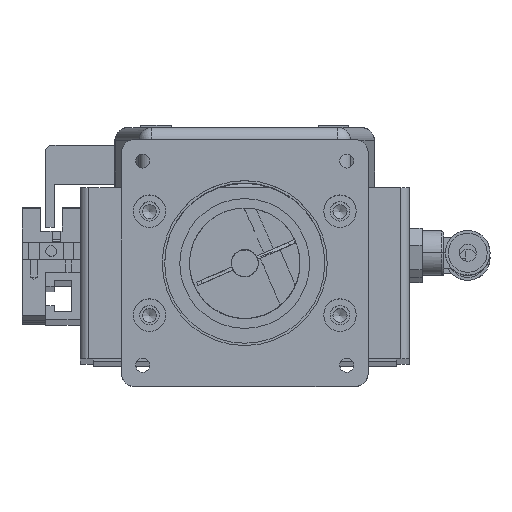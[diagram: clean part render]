
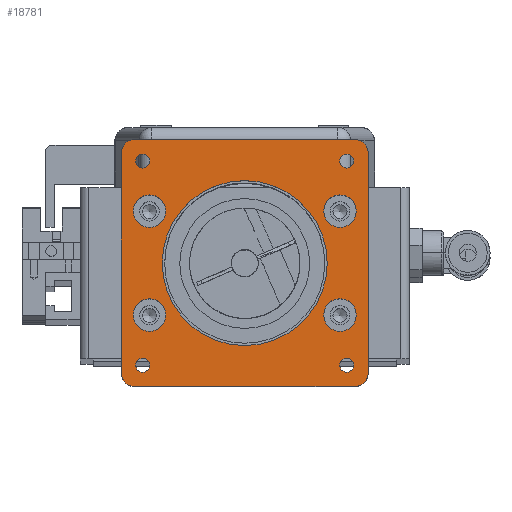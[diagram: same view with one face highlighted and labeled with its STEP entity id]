
A CAD part, top view. The second image highlights one B-rep face of the part: STEP entity #18781.
In plain terms, the highlighted planar face has unit normal (0, 0, 1).
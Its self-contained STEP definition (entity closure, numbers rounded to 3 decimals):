
#17566=CARTESIAN_POINT('',(-25.5,-28.5,12.));
#17567=VERTEX_POINT('',#17566);
#17568=CARTESIAN_POINT('',(-28.5,-25.5,12.));
#17569=VERTEX_POINT('',#17568);
#17570=CARTESIAN_POINT('',(-25.5,-25.5,12.));
#17571=DIRECTION('',(0.0,0.0,-1.));
#17572=DIRECTION('',(-0.707,-0.707,0.0));
#17573=AXIS2_PLACEMENT_3D('',#17570,#17571,#17572);
#17574=CIRCLE('',#17573,3.);
#17575=EDGE_CURVE('',#17567,#17569,#17574,.T.);
#17617=CARTESIAN_POINT('',(25.5,-28.5,12.));
#17618=VERTEX_POINT('',#17617);
#17625=CARTESIAN_POINT('',(25.5,-28.5,12.));
#17626=DIRECTION('',(-1.0,0.0,0.0));
#17627=VECTOR('',#17626,51.);
#17628=LINE('',#17625,#17627);
#17629=EDGE_CURVE('',#17618,#17567,#17628,.T.);
#17702=CARTESIAN_POINT('',(28.5,-25.5,12.));
#17703=VERTEX_POINT('',#17702);
#17704=CARTESIAN_POINT('',(25.5,-25.5,12.));
#17705=DIRECTION('',(0.0,0.0,-1.));
#17706=DIRECTION('',(0.707,-0.707,0.0));
#17707=AXIS2_PLACEMENT_3D('',#17704,#17705,#17706);
#17708=CIRCLE('',#17707,3.);
#17709=EDGE_CURVE('',#17703,#17618,#17708,.T.);
#17745=CARTESIAN_POINT('',(28.5,25.5,12.));
#17746=VERTEX_POINT('',#17745);
#17753=CARTESIAN_POINT('',(28.5,25.5,12.));
#17754=DIRECTION('',(0.0,-1.0,0.0));
#17755=VECTOR('',#17754,51.0);
#17756=LINE('',#17753,#17755);
#17757=EDGE_CURVE('',#17746,#17703,#17756,.T.);
#17767=CARTESIAN_POINT('',(-28.5,25.5,12.));
#17768=VERTEX_POINT('',#17767);
#17769=CARTESIAN_POINT('',(-25.5,28.5,12.));
#17770=VERTEX_POINT('',#17769);
#17771=CARTESIAN_POINT('',(-25.5,25.5,12.));
#17772=DIRECTION('',(0.0,0.0,-1.));
#17773=DIRECTION('',(-0.707,0.707,0.0));
#17774=AXIS2_PLACEMENT_3D('',#17771,#17772,#17773);
#17775=CIRCLE('',#17774,3.);
#17776=EDGE_CURVE('',#17768,#17770,#17775,.T.);
#17802=CARTESIAN_POINT('',(25.5,28.5,12.));
#17803=VERTEX_POINT('',#17802);
#17804=CARTESIAN_POINT('',(-25.5,28.5,12.));
#17805=DIRECTION('',(1.0,0.0,0.0));
#17806=VECTOR('',#17805,51.);
#17807=LINE('',#17804,#17806);
#17808=EDGE_CURVE('',#17770,#17803,#17807,.T.);
#17829=CARTESIAN_POINT('',(25.5,25.5,12.));
#17830=DIRECTION('',(0.0,0.0,-1.0));
#17831=DIRECTION('',(0.707,0.707,0.0));
#17832=AXIS2_PLACEMENT_3D('',#17829,#17830,#17831);
#17833=CIRCLE('',#17832,3.);
#17834=EDGE_CURVE('',#17803,#17746,#17833,.T.);
#18111=CARTESIAN_POINT('',(25.196,-23.575,12.));
#18112=VERTEX_POINT('',#18111);
#18113=CARTESIAN_POINT('',(23.575,-23.575,12.));
#18114=DIRECTION('',(0.0,0.0,-1.0));
#18115=DIRECTION('',(1.0,0.0,0.0));
#18116=AXIS2_PLACEMENT_3D('',#18113,#18114,#18115);
#18117=CIRCLE('',#18116,1.621);
#18118=EDGE_CURVE('',#18112,#18112,#18117,.T.);
#18152=CARTESIAN_POINT('',(-21.954,23.575,12.));
#18153=VERTEX_POINT('',#18152);
#18154=CARTESIAN_POINT('',(-23.575,23.575,12.));
#18155=DIRECTION('',(0.0,0.0,-1.0));
#18156=DIRECTION('',(1.0,0.0,0.0));
#18157=AXIS2_PLACEMENT_3D('',#18154,#18155,#18156);
#18158=CIRCLE('',#18157,1.621);
#18159=EDGE_CURVE('',#18153,#18153,#18158,.T.);
#18193=CARTESIAN_POINT('',(25.196,23.575,12.));
#18194=VERTEX_POINT('',#18193);
#18195=CARTESIAN_POINT('',(23.575,23.575,12.));
#18196=DIRECTION('',(0.0,0.0,-1.0));
#18197=DIRECTION('',(1.0,0.0,0.0));
#18198=AXIS2_PLACEMENT_3D('',#18195,#18196,#18197);
#18199=CIRCLE('',#18198,1.621);
#18200=EDGE_CURVE('',#18194,#18194,#18199,.T.);
#18234=CARTESIAN_POINT('',(-21.954,-23.575,12.));
#18235=VERTEX_POINT('',#18234);
#18236=CARTESIAN_POINT('',(-23.575,-23.575,12.));
#18237=DIRECTION('',(0.0,0.0,-1.0));
#18238=DIRECTION('',(1.0,0.0,0.0));
#18239=AXIS2_PLACEMENT_3D('',#18236,#18237,#18238);
#18240=CIRCLE('',#18239,1.621);
#18241=EDGE_CURVE('',#18235,#18235,#18240,.T.);
#18300=CARTESIAN_POINT('',(25.75,-12.,12.));
#18301=VERTEX_POINT('',#18300);
#18302=CARTESIAN_POINT('',(22.0,-12.,12.));
#18303=DIRECTION('',(0.0,0.0,-1.0));
#18304=DIRECTION('',(1.0,0.0,0.0));
#18305=AXIS2_PLACEMENT_3D('',#18302,#18303,#18304);
#18306=CIRCLE('',#18305,3.75);
#18307=EDGE_CURVE('',#18301,#18301,#18306,.T.);
#18410=CARTESIAN_POINT('',(-18.25,12.,12.));
#18411=VERTEX_POINT('',#18410);
#18412=CARTESIAN_POINT('',(-22.0,12.,12.));
#18413=DIRECTION('',(0.0,0.0,-1.0));
#18414=DIRECTION('',(1.0,0.0,0.0));
#18415=AXIS2_PLACEMENT_3D('',#18412,#18413,#18414);
#18416=CIRCLE('',#18415,3.75);
#18417=EDGE_CURVE('',#18411,#18411,#18416,.T.);
#18520=CARTESIAN_POINT('',(25.75,12.,12.));
#18521=VERTEX_POINT('',#18520);
#18522=CARTESIAN_POINT('',(22.0,12.,12.));
#18523=DIRECTION('',(0.0,0.0,-1.0));
#18524=DIRECTION('',(1.0,0.0,0.0));
#18525=AXIS2_PLACEMENT_3D('',#18522,#18523,#18524);
#18526=CIRCLE('',#18525,3.75);
#18527=EDGE_CURVE('',#18521,#18521,#18526,.T.);
#18630=CARTESIAN_POINT('',(-18.25,-12.,12.));
#18631=VERTEX_POINT('',#18630);
#18632=CARTESIAN_POINT('',(-22.,-12.,12.));
#18633=DIRECTION('',(0.0,0.0,-1.0));
#18634=DIRECTION('',(1.0,0.0,0.0));
#18635=AXIS2_PLACEMENT_3D('',#18632,#18633,#18634);
#18636=CIRCLE('',#18635,3.75);
#18637=EDGE_CURVE('',#18631,#18631,#18636,.T.);
#18702=CARTESIAN_POINT('',(19.05,0.,12.));
#18703=VERTEX_POINT('',#18702);
#18704=CARTESIAN_POINT('',(0.0,0.0,12.));
#18705=DIRECTION('',(0.0,0.0,-1.0));
#18706=DIRECTION('',(-1.0,0.0,0.0));
#18707=AXIS2_PLACEMENT_3D('',#18704,#18705,#18706);
#18708=CIRCLE('',#18707,19.05);
#18709=EDGE_CURVE('',#18703,#18703,#18708,.T.);
#18734=CARTESIAN_POINT('',(0.0,0.,12.));
#18735=DIRECTION('',(0.0,0.0,1.0));
#18736=DIRECTION('',(1.0,0.0,0.0));
#18737=AXIS2_PLACEMENT_3D('',#18734,#18735,#18736);
#18738=PLANE('',#18737);
#18739=ORIENTED_EDGE('',*,*,#17575,.F.);
#18740=ORIENTED_EDGE('',*,*,#17629,.F.);
#18741=ORIENTED_EDGE('',*,*,#17709,.F.);
#18742=ORIENTED_EDGE('',*,*,#17757,.F.);
#18743=ORIENTED_EDGE('',*,*,#17834,.F.);
#18744=ORIENTED_EDGE('',*,*,#17808,.F.);
#18745=ORIENTED_EDGE('',*,*,#17776,.F.);
#18746=CARTESIAN_POINT('',(-28.5,-25.5,12.));
#18747=DIRECTION('',(0.0,1.0,0.0));
#18748=VECTOR('',#18747,51.0);
#18749=LINE('',#18746,#18748);
#18750=EDGE_CURVE('',#17569,#17768,#18749,.T.);
#18751=ORIENTED_EDGE('',*,*,#18750,.F.);
#18752=EDGE_LOOP('',(#18739,#18740,#18741,#18742,#18743,#18744,#18745,#18751));
#18753=FACE_OUTER_BOUND('',#18752,.T.);
#18754=ORIENTED_EDGE('',*,*,#18118,.T.);
#18755=EDGE_LOOP('',(#18754));
#18756=FACE_BOUND('',#18755,.T.);
#18757=ORIENTED_EDGE('',*,*,#18159,.T.);
#18758=EDGE_LOOP('',(#18757));
#18759=FACE_BOUND('',#18758,.T.);
#18760=ORIENTED_EDGE('',*,*,#18200,.T.);
#18761=EDGE_LOOP('',(#18760));
#18762=FACE_BOUND('',#18761,.T.);
#18763=ORIENTED_EDGE('',*,*,#18241,.T.);
#18764=EDGE_LOOP('',(#18763));
#18765=FACE_BOUND('',#18764,.T.);
#18766=ORIENTED_EDGE('',*,*,#18307,.T.);
#18767=EDGE_LOOP('',(#18766));
#18768=FACE_BOUND('',#18767,.T.);
#18769=ORIENTED_EDGE('',*,*,#18417,.T.);
#18770=EDGE_LOOP('',(#18769));
#18771=FACE_BOUND('',#18770,.T.);
#18772=ORIENTED_EDGE('',*,*,#18527,.T.);
#18773=EDGE_LOOP('',(#18772));
#18774=FACE_BOUND('',#18773,.T.);
#18775=ORIENTED_EDGE('',*,*,#18637,.T.);
#18776=EDGE_LOOP('',(#18775));
#18777=FACE_BOUND('',#18776,.T.);
#18778=ORIENTED_EDGE('',*,*,#18709,.T.);
#18779=EDGE_LOOP('',(#18778));
#18780=FACE_BOUND('',#18779,.T.);
#18781=ADVANCED_FACE('',(#18753,#18756,#18759,#18762,#18765,#18768,#18771,#18774,#18777,#18780),#18738,.T.);
